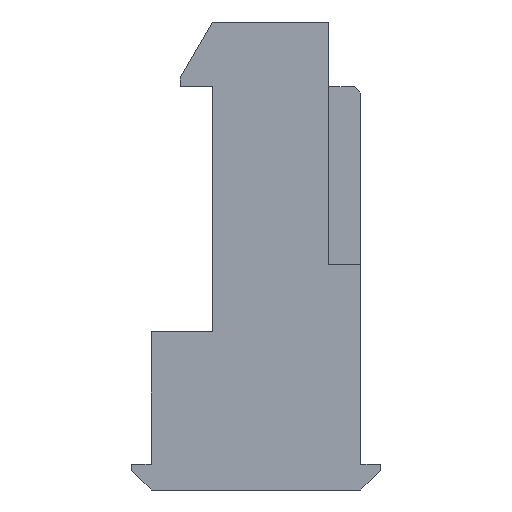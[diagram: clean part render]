
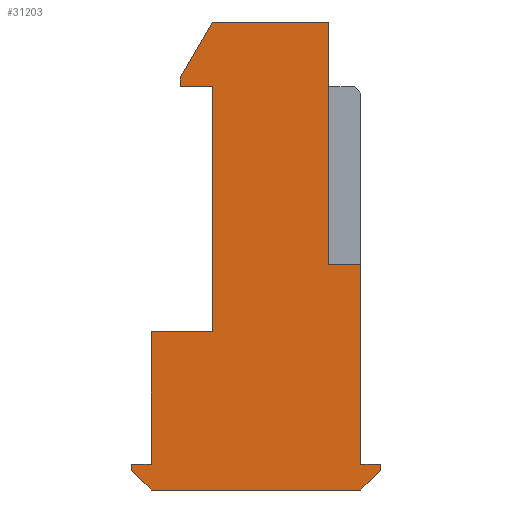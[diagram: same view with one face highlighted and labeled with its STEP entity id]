
A CAD part, left-side view. The second image highlights one B-rep face of the part: STEP entity #31203.
In plain terms, the highlighted planar face has unit normal (-1, 0, 0).
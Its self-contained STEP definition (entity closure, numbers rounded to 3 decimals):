
#2=DIRECTION('',(0.,-1.,0.));
#3=VECTOR('',#2,1.27);
#4=CARTESIAN_POINT('',(-35.662,-2.616,-9.525));
#5=LINE('',#4,#3);
#6=DIRECTION('',(0.,0.,-1.));
#7=VECTOR('',#6,7.874);
#8=CARTESIAN_POINT('',(-35.662,-3.886,-9.525));
#9=LINE('',#8,#7);
#10=DIRECTION('',(0.,-1.,0.));
#11=VECTOR('',#10,0.762);
#12=CARTESIAN_POINT('',(-35.662,-3.886,-17.399));
#13=LINE('',#12,#11);
#14=DIRECTION('',(0.,0.,-1.));
#15=VECTOR('',#14,0.254);
#16=CARTESIAN_POINT('',(-35.662,-4.648,-17.399));
#17=LINE('',#16,#15);
#18=DIRECTION('',(0.,0.707,-0.707));
#19=VECTOR('',#18,1.078);
#20=CARTESIAN_POINT('',(-35.662,-4.648,-17.653));
#21=LINE('',#20,#19);
#22=DIRECTION('',(0.,1.,0.));
#23=VECTOR('',#22,8.255);
#24=CARTESIAN_POINT('',(-35.662,-3.886,-18.415));
#25=LINE('',#24,#23);
#26=DIRECTION('',(0.,0.707,0.707));
#27=VECTOR('',#26,1.078);
#28=CARTESIAN_POINT('',(-35.662,4.369,-18.415));
#29=LINE('',#28,#27);
#30=DIRECTION('',(0.,0.,1.));
#31=VECTOR('',#30,0.254);
#32=CARTESIAN_POINT('',(-35.662,5.131,-17.653));
#33=LINE('',#32,#31);
#34=DIRECTION('',(0.,-1.,0.));
#35=VECTOR('',#34,0.762);
#36=CARTESIAN_POINT('',(-35.662,5.131,-17.399));
#37=LINE('',#36,#35);
#38=DIRECTION('',(0.,0.,1.));
#39=VECTOR('',#38,5.207);
#40=CARTESIAN_POINT('',(-35.662,4.369,-17.399));
#41=LINE('',#40,#39);
#42=DIRECTION('',(0.,-1.,0.));
#43=VECTOR('',#42,2.413);
#44=CARTESIAN_POINT('',(-35.662,4.369,-12.192));
#45=LINE('',#44,#43);
#46=DIRECTION('',(0.,0.,1.));
#47=VECTOR('',#46,9.652);
#48=CARTESIAN_POINT('',(-35.662,1.956,-12.192));
#49=LINE('',#48,#47);
#50=DIRECTION('',(0.,1.,0.));
#51=VECTOR('',#50,1.27);
#52=CARTESIAN_POINT('',(-35.662,1.956,-2.54));
#53=LINE('',#52,#51);
#54=DIRECTION('',(0.,0.,1.));
#55=VECTOR('',#54,0.34);
#56=CARTESIAN_POINT('',(-35.662,3.226,-2.54));
#57=LINE('',#56,#55);
#58=DIRECTION('',(0.,-0.5,0.866));
#59=VECTOR('',#58,2.54);
#60=CARTESIAN_POINT('',(-35.662,3.226,-2.2));
#61=LINE('',#60,#59);
#62=DIRECTION('',(0.,-1.,0.));
#63=VECTOR('',#62,4.572);
#64=CARTESIAN_POINT('',(-35.662,1.956,0.));
#65=LINE('',#64,#63);
#78=DIRECTION('',(0.,0.,1.));
#79=VECTOR('',#78,9.525);
#80=CARTESIAN_POINT('',(-35.662,-2.616,-9.525));
#81=LINE('',#80,#79);
#23542=CARTESIAN_POINT('',(-35.662,1.956,0.));
#23543=CARTESIAN_POINT('',(-35.662,-2.616,0.));
#23544=VERTEX_POINT('',#23542);
#23545=VERTEX_POINT('',#23543);
#23548=CARTESIAN_POINT('',(-35.662,-3.886,-17.399));
#23549=CARTESIAN_POINT('',(-35.662,-4.648,-17.399));
#23550=VERTEX_POINT('',#23548);
#23551=VERTEX_POINT('',#23549);
#23552=CARTESIAN_POINT('',(-35.662,-4.648,-17.653));
#23553=VERTEX_POINT('',#23552);
#23554=CARTESIAN_POINT('',(-35.662,-3.886,-18.415));
#23555=VERTEX_POINT('',#23554);
#23556=CARTESIAN_POINT('',(-35.662,4.369,-18.415));
#23557=VERTEX_POINT('',#23556);
#23558=CARTESIAN_POINT('',(-35.662,4.369,-17.399));
#23559=CARTESIAN_POINT('',(-35.662,4.369,-12.192));
#23560=VERTEX_POINT('',#23558);
#23561=VERTEX_POINT('',#23559);
#23562=CARTESIAN_POINT('',(-35.662,1.956,-12.192));
#23563=VERTEX_POINT('',#23562);
#23632=CARTESIAN_POINT('',(-35.662,1.956,-2.54));
#23633=VERTEX_POINT('',#23632);
#23634=CARTESIAN_POINT('',(-35.662,3.226,-2.54));
#23635=VERTEX_POINT('',#23634);
#23636=CARTESIAN_POINT('',(-35.662,3.226,-2.2));
#23637=VERTEX_POINT('',#23636);
#23700=CARTESIAN_POINT('',(-35.662,-2.616,-9.525));
#23701=CARTESIAN_POINT('',(-35.662,-3.886,-9.525));
#23702=VERTEX_POINT('',#23700);
#23703=VERTEX_POINT('',#23701);
#23800=CARTESIAN_POINT('',(-35.662,5.131,-17.653));
#23801=VERTEX_POINT('',#23800);
#23802=CARTESIAN_POINT('',(-35.662,5.131,-17.399));
#23803=VERTEX_POINT('',#23802);
#31162=CARTESIAN_POINT('',(-35.662,0.,0.));
#31163=DIRECTION('',(1.,0.,0.));
#31164=DIRECTION('',(0.,0.,-1.));
#31165=AXIS2_PLACEMENT_3D('',#31162,#31163,#31164);
#31166=PLANE('',#31165);
#31168=ORIENTED_EDGE('',*,*,#31167,.F.);
#31170=ORIENTED_EDGE('',*,*,#31169,.T.);
#31172=ORIENTED_EDGE('',*,*,#31171,.T.);
#31174=ORIENTED_EDGE('',*,*,#31173,.T.);
#31176=ORIENTED_EDGE('',*,*,#31175,.T.);
#31178=ORIENTED_EDGE('',*,*,#31177,.T.);
#31180=ORIENTED_EDGE('',*,*,#31179,.T.);
#31182=ORIENTED_EDGE('',*,*,#31181,.T.);
#31184=ORIENTED_EDGE('',*,*,#31183,.T.);
#31186=ORIENTED_EDGE('',*,*,#31185,.T.);
#31188=ORIENTED_EDGE('',*,*,#31187,.T.);
#31190=ORIENTED_EDGE('',*,*,#31189,.T.);
#31192=ORIENTED_EDGE('',*,*,#31191,.T.);
#31194=ORIENTED_EDGE('',*,*,#31193,.T.);
#31196=ORIENTED_EDGE('',*,*,#31195,.T.);
#31198=ORIENTED_EDGE('',*,*,#31197,.T.);
#31200=ORIENTED_EDGE('',*,*,#31199,.T.);
#31201=EDGE_LOOP('',(#31168,#31170,#31172,#31174,#31176,#31178,#31180,#31182,
#31184,#31186,#31188,#31190,#31192,#31194,#31196,#31198,#31200));
#31202=FACE_OUTER_BOUND('',#31201,.F.);
#31167=EDGE_CURVE('',#23702,#23545,#81,.T.);
#31169=EDGE_CURVE('',#23702,#23703,#5,.T.);
#31171=EDGE_CURVE('',#23703,#23550,#9,.T.);
#31173=EDGE_CURVE('',#23550,#23551,#13,.T.);
#31175=EDGE_CURVE('',#23551,#23553,#17,.T.);
#31177=EDGE_CURVE('',#23553,#23555,#21,.T.);
#31179=EDGE_CURVE('',#23555,#23557,#25,.T.);
#31181=EDGE_CURVE('',#23557,#23801,#29,.T.);
#31183=EDGE_CURVE('',#23801,#23803,#33,.T.);
#31185=EDGE_CURVE('',#23803,#23560,#37,.T.);
#31187=EDGE_CURVE('',#23560,#23561,#41,.T.);
#31189=EDGE_CURVE('',#23561,#23563,#45,.T.);
#31191=EDGE_CURVE('',#23563,#23633,#49,.T.);
#31193=EDGE_CURVE('',#23633,#23635,#53,.T.);
#31195=EDGE_CURVE('',#23635,#23637,#57,.T.);
#31197=EDGE_CURVE('',#23637,#23544,#61,.T.);
#31199=EDGE_CURVE('',#23544,#23545,#65,.T.);
#31203=ADVANCED_FACE('',(#31202),#31166,.F.);
